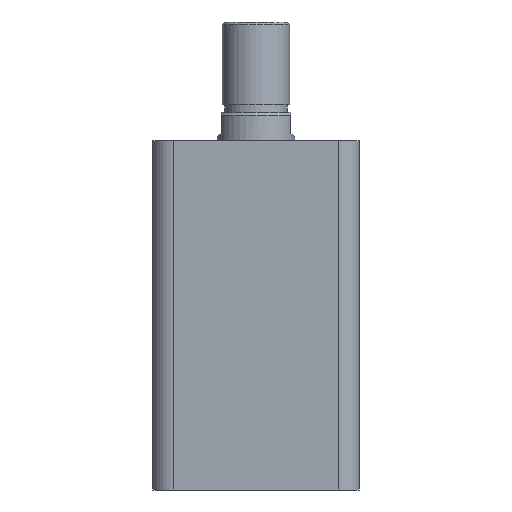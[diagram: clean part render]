
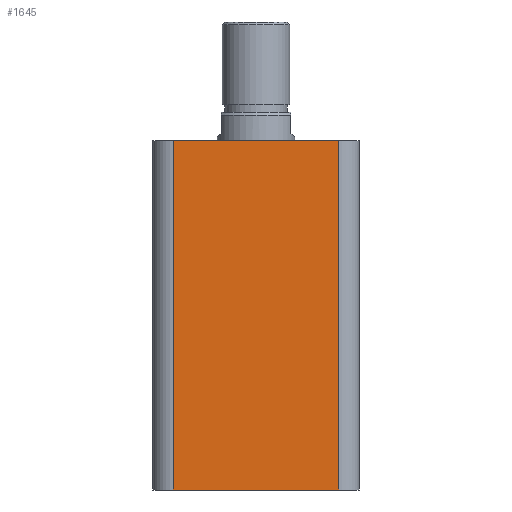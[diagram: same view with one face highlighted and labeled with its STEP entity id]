
A CAD part, front view. The second image highlights one B-rep face of the part: STEP entity #1645.
In plain terms, the highlighted planar face has unit normal (0, -1, 0).
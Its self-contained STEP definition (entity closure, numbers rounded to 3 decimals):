
#83 = FACE_OUTER_BOUND ( 'NONE', #384, .T. ) ;
#384 = EDGE_LOOP ( 'NONE', ( #653, #750, #741, #780 ) ) ;
#646 = VERTEX_POINT ( 'NONE', #2157 ) ;
#653 = ORIENTED_EDGE ( 'NONE', *, *, #1248, .F. ) ;
#668 = VERTEX_POINT ( 'NONE', #2282 ) ;
#689 = VERTEX_POINT ( 'NONE', #2271 ) ;
#695 = VERTEX_POINT ( 'NONE', #2267 ) ;
#741 = ORIENTED_EDGE ( 'NONE', *, *, #1250, .T. ) ;
#750 = ORIENTED_EDGE ( 'NONE', *, *, #1249, .T. ) ;
#780 = ORIENTED_EDGE ( 'NONE', *, *, #1251, .T. ) ;
#1033 = DIRECTION ( 'NONE',  ( 0., 0., 1. ) ) ;
#1034 = CARTESIAN_POINT ( 'NONE',  ( 32., -40., 135. ) ) ;
#1037 = DIRECTION ( 'NONE',  ( 1., 0., 0. ) ) ;
#1038 = DIRECTION ( 'NONE',  ( 0., 0., -1. ) ) ;
#1039 = CARTESIAN_POINT ( 'NONE',  ( -32., -40., 135. ) ) ;
#1040 = DIRECTION ( 'NONE',  ( 1., 0., 0. ) ) ;
#1043 = CARTESIAN_POINT ( 'NONE',  ( -40., -40., 135. ) ) ;
#1072 = CARTESIAN_POINT ( 'NONE',  ( -40., -40., 0. ) ) ;
#1248 = EDGE_CURVE ( 'NONE', #668, #695, #2335, .T. ) ;
#1249 = EDGE_CURVE ( 'NONE', #668, #646, #2333, .T. ) ;
#1250 = EDGE_CURVE ( 'NONE', #646, #689, #2341, .T. ) ;
#1251 = EDGE_CURVE ( 'NONE', #689, #695, #2329, .T. ) ;
#1645 = ADVANCED_FACE ( 'NONE', ( #83 ), #1779, .F. ) ;
#1767 = DIRECTION ( 'NONE',  ( 0., 0., 1. ) ) ;
#1771 = DIRECTION ( 'NONE',  ( 0., 1., 0. ) ) ;
#1779 = PLANE ( 'NONE',  #2608 ) ;
#1788 = CARTESIAN_POINT ( 'NONE',  ( -40., -40., 135. ) ) ;
#2157 = CARTESIAN_POINT ( 'NONE',  ( -32., -40., 0. ) ) ;
#2267 = CARTESIAN_POINT ( 'NONE',  ( 32., -40., 135. ) ) ;
#2271 = CARTESIAN_POINT ( 'NONE',  ( 32., -40., 0. ) ) ;
#2282 = CARTESIAN_POINT ( 'NONE',  ( -32., -40., 135. ) ) ;
#2326 = VECTOR ( 'NONE', #1033, 1000. ) ;
#2328 = VECTOR ( 'NONE', #1037, 1000. ) ;
#2329 = LINE ( 'NONE', #1034, #2326 ) ;
#2330 = VECTOR ( 'NONE', #1038, 1000. ) ;
#2332 = VECTOR ( 'NONE', #1040, 1000. ) ;
#2333 = LINE ( 'NONE', #1039, #2330 ) ;
#2335 = LINE ( 'NONE', #1043, #2332 ) ;
#2341 = LINE ( 'NONE', #1072, #2328 ) ;
#2608 = AXIS2_PLACEMENT_3D ( 'NONE', #1788, #1771, #1767 ) ;
